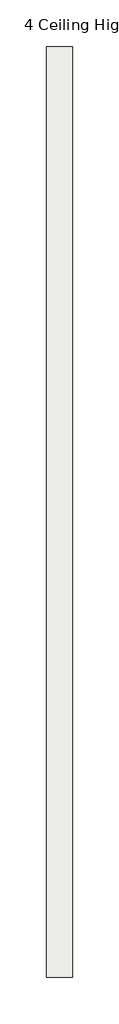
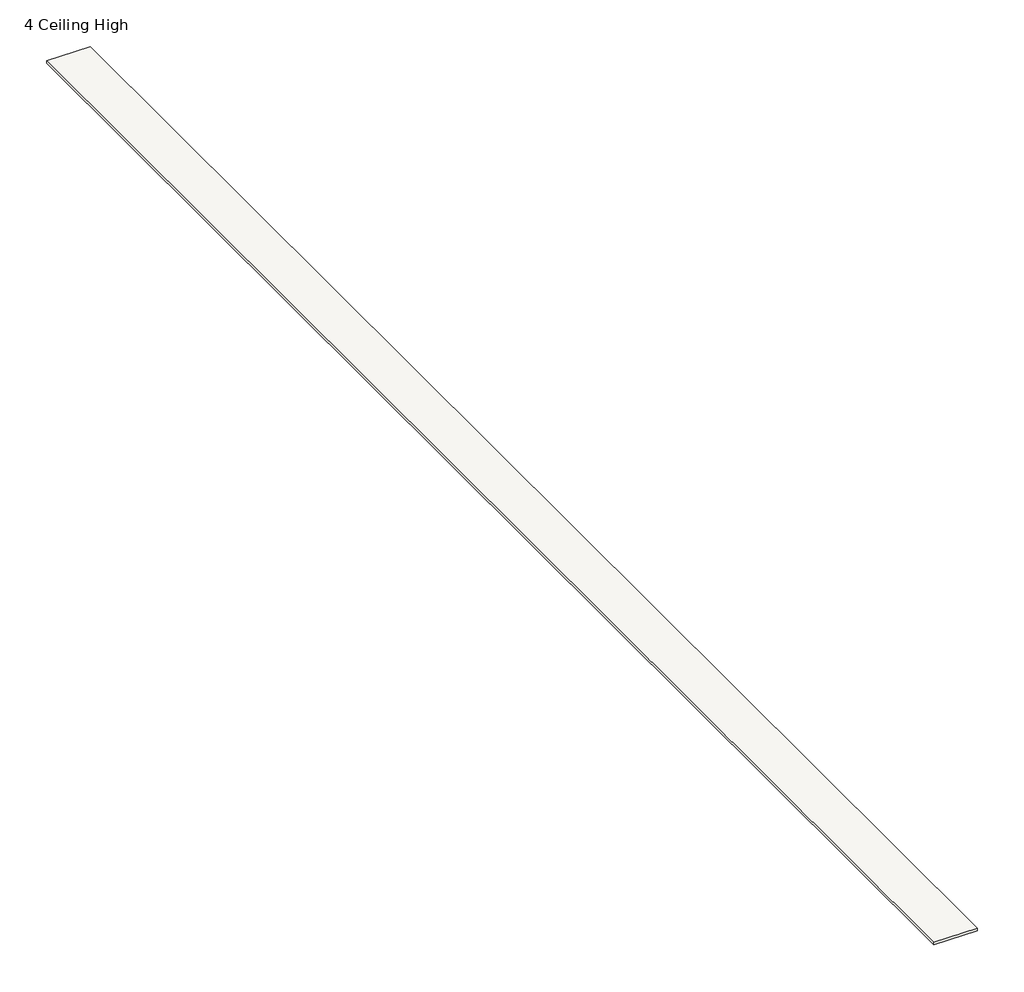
# One storey: 1 covering.
"""IFC4 building model written with IfcOpenShell, lengths in millimetres."""

from ifc_helpers import new_model, si_unit, origin, origin_with_axes, place, context, project, spatial, polyline, outline, extrude, element, save

model = new_model("IFC4")

# Units and contexts
model_context = context("Model", 3, world=origin())
ifc_project = project(units=[si_unit("LENGTHUNIT", "METRE", prefix="MILLI")], contexts=[model_context])

# Site, building, storey
site = spatial("IfcSite", under=ifc_project)
building = spatial("IfcBuilding", under=site)
storey = spatial("IfcBuildingStorey", under=building, Name="4 Ceiling High", Elevation=0.0)

# Covering
placement = place(None, origin())
element("IfcCovering", 1, ObjectType="Controsoffitto", at=placement, inside=storey, context=model_context, shape_type="SweptSolid", body=[
    extrude(outline(polyline([(2500.0, -7000.0), (2500.0, -183250.0), (-2500.0, -183250.0), (-2500.0, -7000.0), (2500.0, -7000.0)])), origin_with_axes(), (0.0, 0.0, 1.0), 300.0),
])

save(model, "model.ifc")
